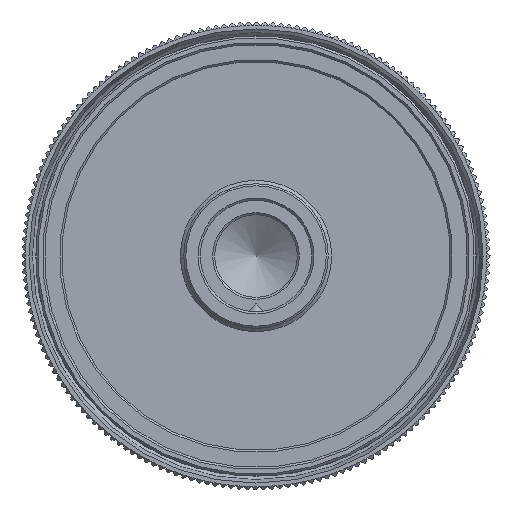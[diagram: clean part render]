
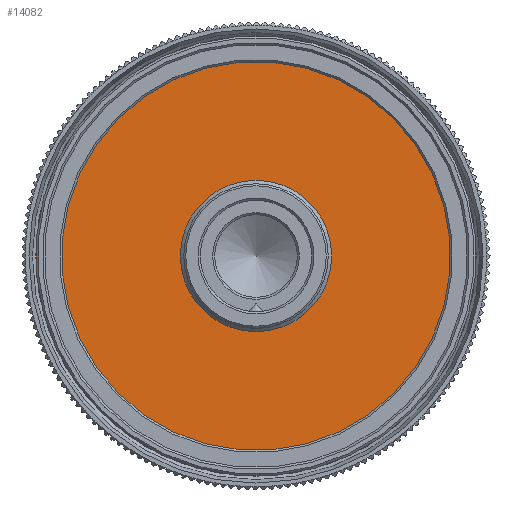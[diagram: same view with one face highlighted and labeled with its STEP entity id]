
A CAD part, left-side view. The second image highlights one B-rep face of the part: STEP entity #14082.
In plain terms, the highlighted planar face has unit normal (-1, 0, 0) as drawn and (0, 0, 1) by its records, which use the part's own axes.
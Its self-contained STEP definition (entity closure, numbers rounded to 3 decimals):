
#2724=PLANE('',#22398);
#6784=ORIENTED_EDGE('',*,*,#8964,.T.);
#6785=ORIENTED_EDGE('',*,*,#8965,.T.);
#8964=EDGE_CURVE('',#10142,#10142,#10919,.F.);
#8965=EDGE_CURVE('',#10143,#10143,#10920,.T.);
#10142=VERTEX_POINT('',#32840);
#10143=VERTEX_POINT('',#32842);
#10919=CIRCLE('',#22399,11.);
#10920=CIRCLE('',#22400,32.);
#11884=EDGE_LOOP('',(#6784));
#11885=EDGE_LOOP('',(#6785));
#12895=FACE_BOUND('',#11884,.T.);
#12896=FACE_BOUND('',#11885,.T.);
#14082=ADVANCED_FACE('',(#12895,#12896),#2724,.T.);
#22398=AXIS2_PLACEMENT_3D('',#32838,#26388,#26389);
#22399=AXIS2_PLACEMENT_3D('',#32839,#26390,#26391);
#22400=AXIS2_PLACEMENT_3D('',#32841,#26392,#26393);
#26388=DIRECTION('',(0.,0.,1.));
#26389=DIRECTION('',(1.,0.,0.));
#26390=DIRECTION('',(0.,0.,1.));
#26391=DIRECTION('',(1.,0.,0.));
#26392=DIRECTION('',(0.,0.,1.));
#26393=DIRECTION('',(1.,0.,0.));
#32838=CARTESIAN_POINT('',(0.,0.,-32.5));
#32839=CARTESIAN_POINT('',(0.,0.,-32.5));
#32840=CARTESIAN_POINT('',(11.,0.,-32.5));
#32841=CARTESIAN_POINT('',(0.,0.,-32.5));
#32842=CARTESIAN_POINT('',(32.,0.,-32.5));
